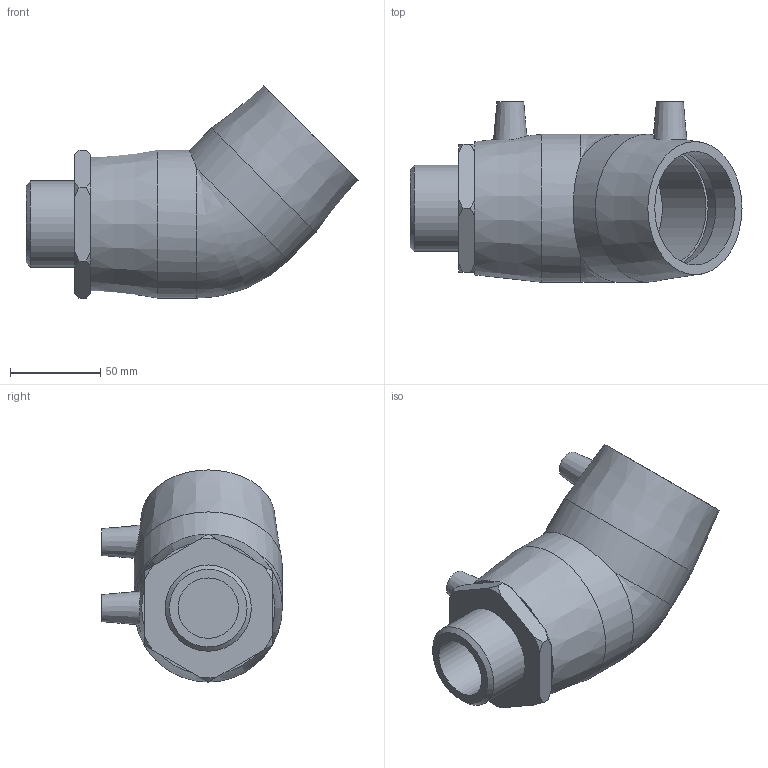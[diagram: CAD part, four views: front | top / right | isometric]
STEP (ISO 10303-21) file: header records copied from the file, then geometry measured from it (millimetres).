
FILE_DESCRIPTION(/* description */ ('PLASSON 45° ELBOW TRANSITION MALE 63-1.1/2"'),/* implementation_level */ '2;1');
FILE_NAME(/* name */ 'C:\Dropbox\KIMPROJECTS-Inventor\99-16-3568-Processing\ElectroFusion Fittings\02.02.20\492604\492604063015.ipt.stp',/* time_stamp */ '2020-02-02T12:20:07+02:00',/* author */ ('KIM'),/* organization */ (''),/* preprocessor_version */ 'ST-DEVELOPER v15.6',/* originating_system */ 'Autodesk Inventor 2015',/* authorisation */ '');
FILE_SCHEMA (('AUTOMOTIVE_DESIGN { 1 0 10303 214 3 1 1 }'));
Length unit declared in the file: millimetre
Products named in the file (1): 492604063015
Bounding box: 184 x 100 x 117.59 mm (x, y, z)
Volume: 481800.3 mm3; surface area: 85681.7 mm2
Topology: 1 solids, 2 shells, 59 faces, 133 edges, 88 vertices
Faces by surface type: plane 24, cone 19, cylinder 15, bspline 1
Full cylindrical faces by diameter (mm): 4 x2, 10 x2, 33.462 x1, 40.95 x2, 47.803 x1, 48 x1, 63 x4, 82 x2
Entity records: 1500 total; most frequent: CARTESIAN_POINT 369, DIRECTION 236, ORIENTED_EDGE 188, AXIS2_PLACEMENT_3D 109, EDGE_LOOP 97, EDGE_CURVE 94, VERTEX_POINT 75, FACE_OUTER_BOUND 59
